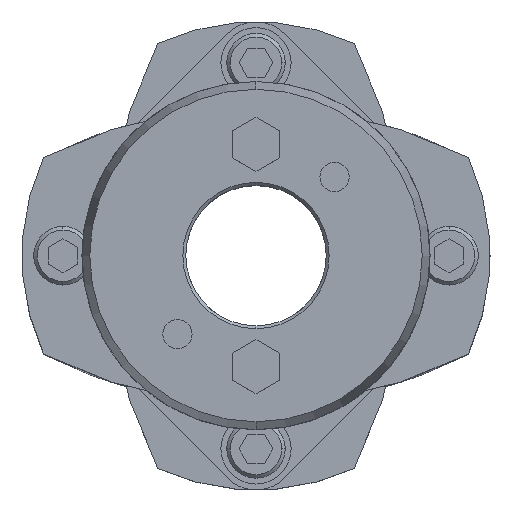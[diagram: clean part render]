
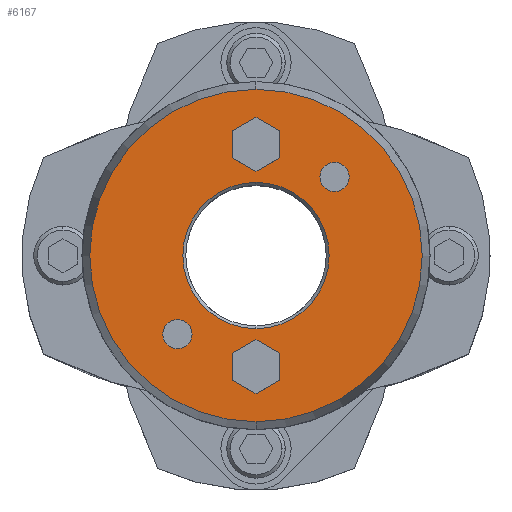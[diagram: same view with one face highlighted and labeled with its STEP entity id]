
A CAD part, top view. The second image highlights one B-rep face of the part: STEP entity #6167.
In plain terms, the highlighted planar face has unit normal (0, 0, 1).
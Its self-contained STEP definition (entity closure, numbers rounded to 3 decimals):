
#1677=CARTESIAN_POINT('',(0.,12.5,45.25));
#1678=VERTEX_POINT('',#1677);
#1694=CARTESIAN_POINT('',(0.,-12.5,45.25));
#1695=VERTEX_POINT('',#1694);
#1702=CARTESIAN_POINT('',(0.,0.,45.25));
#1703=DIRECTION('',(0.0,0.0,1.0));
#1704=DIRECTION('',(0.,1.0,0.0));
#1705=AXIS2_PLACEMENT_3D('',#1702,#1703,#1704);
#1706=CIRCLE('',#1705,12.5);
#1707=EDGE_CURVE('',#1695,#1678,#1706,.T.);
#1823=CARTESIAN_POINT('',(0.,-28.41,45.25));
#1824=VERTEX_POINT('',#1823);
#1833=CARTESIAN_POINT('',(0.,28.41,45.25));
#1834=VERTEX_POINT('',#1833);
#1835=CARTESIAN_POINT('',(0.,0.,45.25));
#1836=DIRECTION('',(0.0,0.0,-1.0));
#1837=DIRECTION('',(0.,-1.0,0.0));
#1838=AXIS2_PLACEMENT_3D('',#1835,#1836,#1837);
#1839=CIRCLE('',#1838,28.41);
#1840=EDGE_CURVE('',#1824,#1834,#1839,.T.);
#2009=CARTESIAN_POINT('',(13.435,15.935,45.25));
#2010=VERTEX_POINT('',#2009);
#2026=CARTESIAN_POINT('',(13.435,10.935,45.25));
#2027=VERTEX_POINT('',#2026);
#2034=CARTESIAN_POINT('',(13.435,13.435,45.25));
#2035=DIRECTION('',(0.0,0.0,-1.0));
#2036=DIRECTION('',(0.,1.0,0.0));
#2037=AXIS2_PLACEMENT_3D('',#2034,#2035,#2036);
#2038=CIRCLE('',#2037,2.5);
#2039=EDGE_CURVE('',#2010,#2027,#2038,.T.);
#2051=CARTESIAN_POINT('',(-13.435,-10.935,45.25));
#2052=VERTEX_POINT('',#2051);
#2068=CARTESIAN_POINT('',(-13.435,-15.935,45.25));
#2069=VERTEX_POINT('',#2068);
#2076=CARTESIAN_POINT('',(-13.435,-13.435,45.25));
#2077=DIRECTION('',(0.0,0.0,-1.0));
#2078=DIRECTION('',(0.,1.0,0.0));
#2079=AXIS2_PLACEMENT_3D('',#2076,#2077,#2078);
#2080=CIRCLE('',#2079,2.5);
#2081=EDGE_CURVE('',#2052,#2069,#2080,.T.);
#5293=CARTESIAN_POINT('',(0.,-14.381,45.25));
#5294=VERTEX_POINT('',#5293);
#5301=CARTESIAN_POINT('',(-4.,-16.691,45.25));
#5302=VERTEX_POINT('',#5301);
#5303=CARTESIAN_POINT('',(-4.,-16.691,45.25));
#5304=DIRECTION('',(0.866,0.5,0.0));
#5305=VECTOR('',#5304,4.619);
#5306=LINE('',#5303,#5305);
#5307=EDGE_CURVE('',#5302,#5294,#5306,.T.);
#5331=CARTESIAN_POINT('',(4.,-16.691,45.25));
#5332=VERTEX_POINT('',#5331);
#5339=CARTESIAN_POINT('',(0.,-14.381,45.25));
#5340=DIRECTION('',(0.866,-0.5,0.0));
#5341=VECTOR('',#5340,4.619);
#5342=LINE('',#5339,#5341);
#5343=EDGE_CURVE('',#5294,#5332,#5342,.T.);
#5362=CARTESIAN_POINT('',(4.,-21.309,45.25));
#5363=VERTEX_POINT('',#5362);
#5370=CARTESIAN_POINT('',(4.,-16.691,45.25));
#5371=DIRECTION('',(0.,-1.0,0.0));
#5372=VECTOR('',#5371,4.619);
#5373=LINE('',#5370,#5372);
#5374=EDGE_CURVE('',#5332,#5363,#5373,.T.);
#5393=CARTESIAN_POINT('',(0.,-23.619,45.25));
#5394=VERTEX_POINT('',#5393);
#5401=CARTESIAN_POINT('',(4.,-21.309,45.25));
#5402=DIRECTION('',(-0.866,-0.5,0.0));
#5403=VECTOR('',#5402,4.619);
#5404=LINE('',#5401,#5403);
#5405=EDGE_CURVE('',#5363,#5394,#5404,.T.);
#5424=CARTESIAN_POINT('',(-4.,-21.309,45.25));
#5425=VERTEX_POINT('',#5424);
#5432=CARTESIAN_POINT('',(0.,-23.619,45.25));
#5433=DIRECTION('',(-0.866,0.5,0.0));
#5434=VECTOR('',#5433,4.619);
#5435=LINE('',#5432,#5434);
#5436=EDGE_CURVE('',#5394,#5425,#5435,.T.);
#5454=CARTESIAN_POINT('',(-4.,-21.309,45.25));
#5455=DIRECTION('',(0.,1.0,0.0));
#5456=VECTOR('',#5455,4.619);
#5457=LINE('',#5454,#5456);
#5458=EDGE_CURVE('',#5425,#5302,#5457,.T.);
#5493=CARTESIAN_POINT('',(0.,23.619,45.25));
#5494=VERTEX_POINT('',#5493);
#5501=CARTESIAN_POINT('',(-4.,21.309,45.25));
#5502=VERTEX_POINT('',#5501);
#5503=CARTESIAN_POINT('',(-4.,21.309,45.25));
#5504=DIRECTION('',(0.866,0.5,0.0));
#5505=VECTOR('',#5504,4.619);
#5506=LINE('',#5503,#5505);
#5507=EDGE_CURVE('',#5502,#5494,#5506,.T.);
#5531=CARTESIAN_POINT('',(4.,21.309,45.25));
#5532=VERTEX_POINT('',#5531);
#5539=CARTESIAN_POINT('',(0.,23.619,45.25));
#5540=DIRECTION('',(0.866,-0.5,0.0));
#5541=VECTOR('',#5540,4.619);
#5542=LINE('',#5539,#5541);
#5543=EDGE_CURVE('',#5494,#5532,#5542,.T.);
#5562=CARTESIAN_POINT('',(4.,16.691,45.25));
#5563=VERTEX_POINT('',#5562);
#5570=CARTESIAN_POINT('',(4.,21.309,45.25));
#5571=DIRECTION('',(0.,-1.0,0.0));
#5572=VECTOR('',#5571,4.619);
#5573=LINE('',#5570,#5572);
#5574=EDGE_CURVE('',#5532,#5563,#5573,.T.);
#5593=CARTESIAN_POINT('',(0.,14.381,45.25));
#5594=VERTEX_POINT('',#5593);
#5601=CARTESIAN_POINT('',(4.,16.691,45.25));
#5602=DIRECTION('',(-0.866,-0.5,0.0));
#5603=VECTOR('',#5602,4.619);
#5604=LINE('',#5601,#5603);
#5605=EDGE_CURVE('',#5563,#5594,#5604,.T.);
#5624=CARTESIAN_POINT('',(-4.,16.691,45.25));
#5625=VERTEX_POINT('',#5624);
#5632=CARTESIAN_POINT('',(0.,14.381,45.25));
#5633=DIRECTION('',(-0.866,0.5,0.0));
#5634=VECTOR('',#5633,4.619);
#5635=LINE('',#5632,#5634);
#5636=EDGE_CURVE('',#5594,#5625,#5635,.T.);
#5654=CARTESIAN_POINT('',(-4.,16.691,45.25));
#5655=DIRECTION('',(0.,1.0,0.0));
#5656=VECTOR('',#5655,4.619);
#5657=LINE('',#5654,#5656);
#5658=EDGE_CURVE('',#5625,#5502,#5657,.T.);
#5684=CARTESIAN_POINT('',(-13.435,-13.435,45.25));
#5685=DIRECTION('',(0.0,0.0,-1.0));
#5686=DIRECTION('',(0.,1.0,0.0));
#5687=AXIS2_PLACEMENT_3D('',#5684,#5685,#5686);
#5688=CIRCLE('',#5687,2.5);
#5689=EDGE_CURVE('',#2069,#2052,#5688,.T.);
#5718=CARTESIAN_POINT('',(13.435,13.435,45.25));
#5719=DIRECTION('',(0.0,0.0,-1.0));
#5720=DIRECTION('',(0.,1.0,0.0));
#5721=AXIS2_PLACEMENT_3D('',#5718,#5719,#5720);
#5722=CIRCLE('',#5721,2.5);
#5723=EDGE_CURVE('',#2027,#2010,#5722,.T.);
#6114=CARTESIAN_POINT('',(0.,0.,45.25));
#6115=DIRECTION('',(0.0,0.0,-1.0));
#6116=DIRECTION('',(0.,-1.0,0.0));
#6117=AXIS2_PLACEMENT_3D('',#6114,#6115,#6116);
#6118=CIRCLE('',#6117,28.41);
#6119=EDGE_CURVE('',#1834,#1824,#6118,.T.);
#6124=CARTESIAN_POINT('',(0.,2.364,45.25));
#6125=DIRECTION('',(0.0,0.0,1.0));
#6126=DIRECTION('',(0.,1.0,0.0));
#6127=AXIS2_PLACEMENT_3D('',#6124,#6125,#6126);
#6128=PLANE('',#6127);
#6129=ORIENTED_EDGE('',*,*,#6119,.F.);
#6130=ORIENTED_EDGE('',*,*,#1840,.F.);
#6131=EDGE_LOOP('',(#6129,#6130));
#6132=FACE_OUTER_BOUND('',#6131,.T.);
#6133=ORIENTED_EDGE('',*,*,#5307,.T.);
#6134=ORIENTED_EDGE('',*,*,#5343,.T.);
#6135=ORIENTED_EDGE('',*,*,#5374,.T.);
#6136=ORIENTED_EDGE('',*,*,#5405,.T.);
#6137=ORIENTED_EDGE('',*,*,#5436,.T.);
#6138=ORIENTED_EDGE('',*,*,#5458,.T.);
#6139=EDGE_LOOP('',(#6133,#6134,#6135,#6136,#6137,#6138));
#6140=FACE_BOUND('',#6139,.T.);
#6141=ORIENTED_EDGE('',*,*,#5507,.T.);
#6142=ORIENTED_EDGE('',*,*,#5543,.T.);
#6143=ORIENTED_EDGE('',*,*,#5574,.T.);
#6144=ORIENTED_EDGE('',*,*,#5605,.T.);
#6145=ORIENTED_EDGE('',*,*,#5636,.T.);
#6146=ORIENTED_EDGE('',*,*,#5658,.T.);
#6147=EDGE_LOOP('',(#6141,#6142,#6143,#6144,#6145,#6146));
#6148=FACE_BOUND('',#6147,.T.);
#6149=ORIENTED_EDGE('',*,*,#2081,.T.);
#6150=ORIENTED_EDGE('',*,*,#5689,.T.);
#6151=EDGE_LOOP('',(#6149,#6150));
#6152=FACE_BOUND('',#6151,.T.);
#6153=ORIENTED_EDGE('',*,*,#2039,.T.);
#6154=ORIENTED_EDGE('',*,*,#5723,.T.);
#6155=EDGE_LOOP('',(#6153,#6154));
#6156=FACE_BOUND('',#6155,.T.);
#6157=ORIENTED_EDGE('',*,*,#1707,.F.);
#6158=CARTESIAN_POINT('',(0.,0.,45.25));
#6159=DIRECTION('',(0.0,0.0,1.0));
#6160=DIRECTION('',(0.,1.0,0.0));
#6161=AXIS2_PLACEMENT_3D('',#6158,#6159,#6160);
#6162=CIRCLE('',#6161,12.5);
#6163=EDGE_CURVE('',#1678,#1695,#6162,.T.);
#6164=ORIENTED_EDGE('',*,*,#6163,.F.);
#6165=EDGE_LOOP('',(#6157,#6164));
#6166=FACE_BOUND('',#6165,.T.);
#6167=ADVANCED_FACE('',(#6132,#6140,#6148,#6152,#6156,#6166),#6128,.T.);
